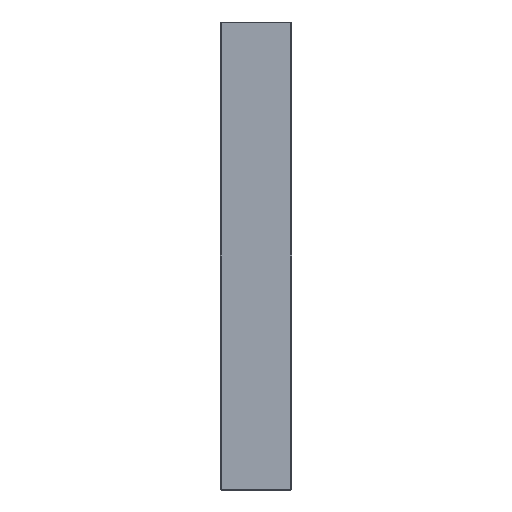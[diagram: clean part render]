
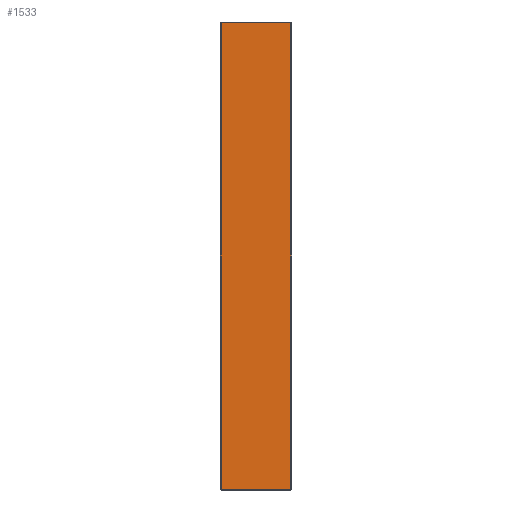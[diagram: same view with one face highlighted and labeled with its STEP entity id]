
A CAD part, left-side view. The second image highlights one B-rep face of the part: STEP entity #1533.
In plain terms, the highlighted planar face has unit normal (-1, 0, 0).
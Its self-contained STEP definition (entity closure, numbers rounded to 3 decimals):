
#82 = CARTESIAN_POINT ( 'NONE',  ( -198., 1., -247. ) ) ;
#114 = PLANE ( 'NONE',  #954 ) ;
#196 = CARTESIAN_POINT ( 'NONE',  ( -198., 75., 247. ) ) ;
#214 = VERTEX_POINT ( 'NONE', #1551 ) ;
#268 = VERTEX_POINT ( 'NONE', #196 ) ;
#287 = VECTOR ( 'NONE', #1118, 1000. ) ;
#576 = DIRECTION ( 'NONE',  ( 0., 0., -1. ) ) ;
#594 = DIRECTION ( 'NONE',  ( 1., 0., 0. ) ) ;
#779 = DIRECTION ( 'NONE',  ( 0., -1., 0. ) ) ;
#863 = EDGE_CURVE ( 'NONE', #214, #268, #890, .T. ) ;
#872 = FACE_OUTER_BOUND ( 'NONE', #993, .T. ) ;
#890 = LINE ( 'NONE', #1762, #1520 ) ;
#908 = CARTESIAN_POINT ( 'NONE',  ( -198., 76., -247. ) ) ;
#937 = ORIENTED_EDGE ( 'NONE', *, *, #863, .T. ) ;
#954 = AXIS2_PLACEMENT_3D ( 'NONE', #960, #594, #576 ) ;
#960 = CARTESIAN_POINT ( 'NONE',  ( -198., 76., 248. ) ) ;
#993 = EDGE_LOOP ( 'NONE', ( #937, #1086, #1134, #1170 ) ) ;
#1017 = EDGE_CURVE ( 'NONE', #268, #1556, #1300, .T. ) ;
#1033 = LINE ( 'NONE', #1929, #1622 ) ;
#1086 = ORIENTED_EDGE ( 'NONE', *, *, #1017, .T. ) ;
#1118 = DIRECTION ( 'NONE',  ( 0., 0., -1. ) ) ;
#1134 = ORIENTED_EDGE ( 'NONE', *, *, #1362, .T. ) ;
#1170 = ORIENTED_EDGE ( 'NONE', *, *, #1204, .T. ) ;
#1204 = EDGE_CURVE ( 'NONE', #1403, #214, #1033, .T. ) ;
#1266 = CARTESIAN_POINT ( 'NONE',  ( -198., 75., -247. ) ) ;
#1280 = VECTOR ( 'NONE', #779, 1000. ) ;
#1300 = LINE ( 'NONE', #1407, #287 ) ;
#1326 = LINE ( 'NONE', #908, #1280 ) ;
#1362 = EDGE_CURVE ( 'NONE', #1556, #1403, #1326, .T. ) ;
#1403 = VERTEX_POINT ( 'NONE', #82 ) ;
#1407 = CARTESIAN_POINT ( 'NONE',  ( -198., 75., 248. ) ) ;
#1520 = VECTOR ( 'NONE', #1788, 1000. ) ;
#1533 = ADVANCED_FACE ( 'NONE', ( #872 ), #114, .F. ) ;
#1551 = CARTESIAN_POINT ( 'NONE',  ( -198., 1., 247. ) ) ;
#1556 = VERTEX_POINT ( 'NONE', #1266 ) ;
#1622 = VECTOR ( 'NONE', #1938, 1000. ) ;
#1762 = CARTESIAN_POINT ( 'NONE',  ( -198., 76., 247. ) ) ;
#1788 = DIRECTION ( 'NONE',  ( 0., 1., 0. ) ) ;
#1929 = CARTESIAN_POINT ( 'NONE',  ( -198., 1., 248. ) ) ;
#1938 = DIRECTION ( 'NONE',  ( 0., 0., 1. ) ) ;
